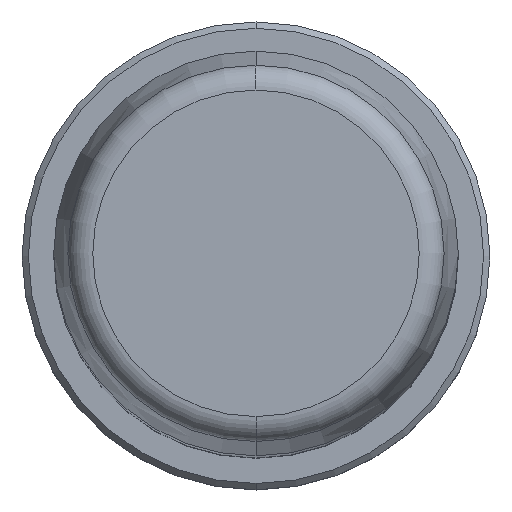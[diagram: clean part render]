
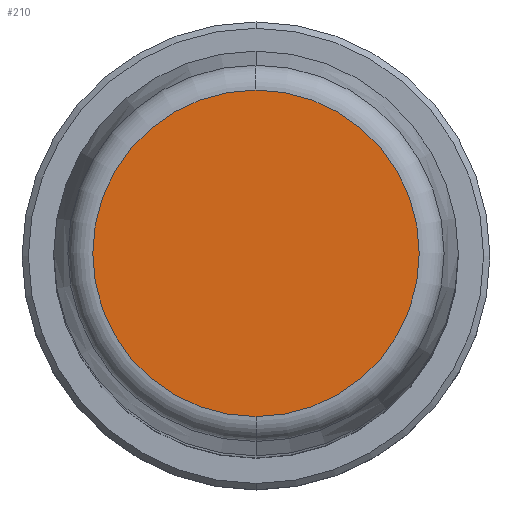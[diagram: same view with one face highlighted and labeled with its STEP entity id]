
A CAD part, top view. The second image highlights one B-rep face of the part: STEP entity #210.
In plain terms, the highlighted planar face has unit normal (0, 0, 1).
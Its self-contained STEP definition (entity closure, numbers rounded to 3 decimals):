
#1=CARTESIAN_POINT('',(0.,0.,125.));
#2=DIRECTION('',(0.,0.,-1.));
#3=DIRECTION('',(0.,-1.,0.));
#4=AXIS2_PLACEMENT_3D('',#1,#2,#3);
#6=CARTESIAN_POINT('',(0.,0.,125.));
#7=DIRECTION('',(0.,0.,-1.));
#8=DIRECTION('',(0.,1.,0.));
#9=AXIS2_PLACEMENT_3D('',#6,#7,#8);
#183=CARTESIAN_POINT('',(0.,-12.911,125.));
#184=CARTESIAN_POINT('',(0.,12.911,125.));
#185=VERTEX_POINT('',#183);
#186=VERTEX_POINT('',#184);
#199=CARTESIAN_POINT('',(0.,0.,125.));
#200=DIRECTION('',(0.,0.,1.));
#201=DIRECTION('',(0.,-1.,0.));
#202=AXIS2_PLACEMENT_3D('',#199,#200,#201);
#203=PLANE('',#202);
#205=ORIENTED_EDGE('',*,*,#204,.T.);
#207=ORIENTED_EDGE('',*,*,#206,.T.);
#208=EDGE_LOOP('',(#205,#207));
#209=FACE_OUTER_BOUND('',#208,.F.);
#210=ADVANCED_FACE('',(#209),#203,.T.);
#5=CIRCLE('',#4,12.911);
#10=CIRCLE('',#9,12.911);
#204=EDGE_CURVE('',#185,#186,#5,.T.);
#206=EDGE_CURVE('',#186,#185,#10,.T.);
